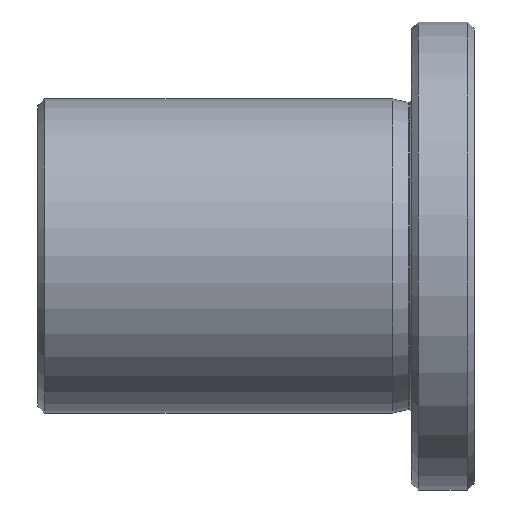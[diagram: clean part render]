
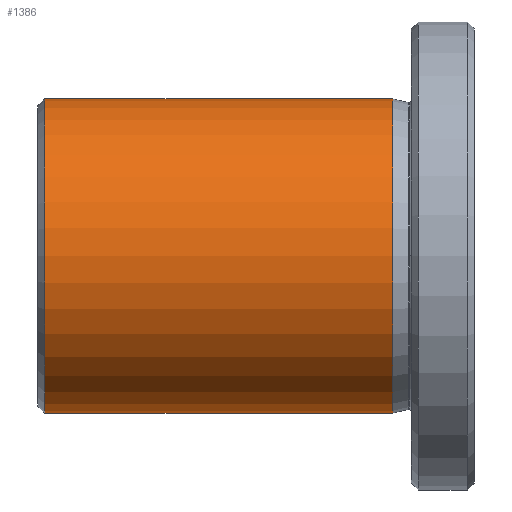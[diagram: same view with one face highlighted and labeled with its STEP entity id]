
A CAD part, top view. The second image highlights one B-rep face of the part: STEP entity #1386.
In plain terms, the highlighted cylindrical face has radius 45 mm (diameter 90 mm), a partial arc.
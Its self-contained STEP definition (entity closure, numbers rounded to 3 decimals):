
#76 = CARTESIAN_POINT ( 'NONE',  ( 51.8, 0., 0. ) ) ;
#97 = DIRECTION ( 'NONE',  ( 1., 0., 0. ) ) ;
#108 = EDGE_CURVE ( 'NONE', #596, #1205, #896, .T. ) ;
#111 = CARTESIAN_POINT ( 'NONE',  ( 2., -45., 0. ) ) ;
#118 = CIRCLE ( 'NONE', #233, 45. ) ;
#176 = EDGE_CURVE ( 'NONE', #1205, #328, #183, .T. ) ;
#183 = LINE ( 'NONE', #916, #456 ) ;
#228 = VERTEX_POINT ( 'NONE', #1216 ) ;
#233 = AXIS2_PLACEMENT_3D ( 'NONE', #1160, #686, #1279 ) ;
#284 = EDGE_CURVE ( 'NONE', #596, #228, #1100, .T. ) ;
#328 = VERTEX_POINT ( 'NONE', #857 ) ;
#442 = ORIENTED_EDGE ( 'NONE', *, *, #1524, .T. ) ;
#456 = VECTOR ( 'NONE', #97, 1000. ) ;
#585 = ORIENTED_EDGE ( 'NONE', *, *, #176, .F. ) ;
#596 = VERTEX_POINT ( 'NONE', #111 ) ;
#647 = ORIENTED_EDGE ( 'NONE', *, *, #108, .F. ) ;
#686 = DIRECTION ( 'NONE',  ( -1., 0., 0. ) ) ;
#719 = EDGE_LOOP ( 'NONE', ( #647, #1466, #442, #585 ) ) ;
#750 = DIRECTION ( 'NONE',  ( 1., 0., 0. ) ) ;
#857 = CARTESIAN_POINT ( 'NONE',  ( 101.6, 45., 0. ) ) ;
#896 = CIRCLE ( 'NONE', #1000, 45. ) ;
#916 = CARTESIAN_POINT ( 'NONE',  ( 51.8, 45., 0. ) ) ;
#1000 = AXIS2_PLACEMENT_3D ( 'NONE', #1502, #1511, #1263 ) ;
#1100 = LINE ( 'NONE', #1331, #1137 ) ;
#1114 = DIRECTION ( 'NONE',  ( 1., 0., 0. ) ) ;
#1136 = CYLINDRICAL_SURFACE ( 'NONE', #1538, 45. ) ;
#1137 = VECTOR ( 'NONE', #1114, 1000. ) ;
#1160 = CARTESIAN_POINT ( 'NONE',  ( 101.6, 0., 0. ) ) ;
#1205 = VERTEX_POINT ( 'NONE', #1347 ) ;
#1206 = DIRECTION ( 'NONE',  ( 0., 1., 0. ) ) ;
#1216 = CARTESIAN_POINT ( 'NONE',  ( 101.6, -45., 0. ) ) ;
#1263 = DIRECTION ( 'NONE',  ( 0., 1., 0. ) ) ;
#1279 = DIRECTION ( 'NONE',  ( 0., 1., 0. ) ) ;
#1331 = CARTESIAN_POINT ( 'NONE',  ( 51.8, -45., 0. ) ) ;
#1347 = CARTESIAN_POINT ( 'NONE',  ( 2., 45., 0. ) ) ;
#1386 = ADVANCED_FACE ( 'NONE', ( #1489 ), #1136, .T. ) ;
#1466 = ORIENTED_EDGE ( 'NONE', *, *, #284, .T. ) ;
#1489 = FACE_OUTER_BOUND ( 'NONE', #719, .T. ) ;
#1502 = CARTESIAN_POINT ( 'NONE',  ( 2., 0., 0. ) ) ;
#1511 = DIRECTION ( 'NONE',  ( -1., 0., 0. ) ) ;
#1524 = EDGE_CURVE ( 'NONE', #228, #328, #118, .T. ) ;
#1538 = AXIS2_PLACEMENT_3D ( 'NONE', #76, #750, #1206 ) ;
